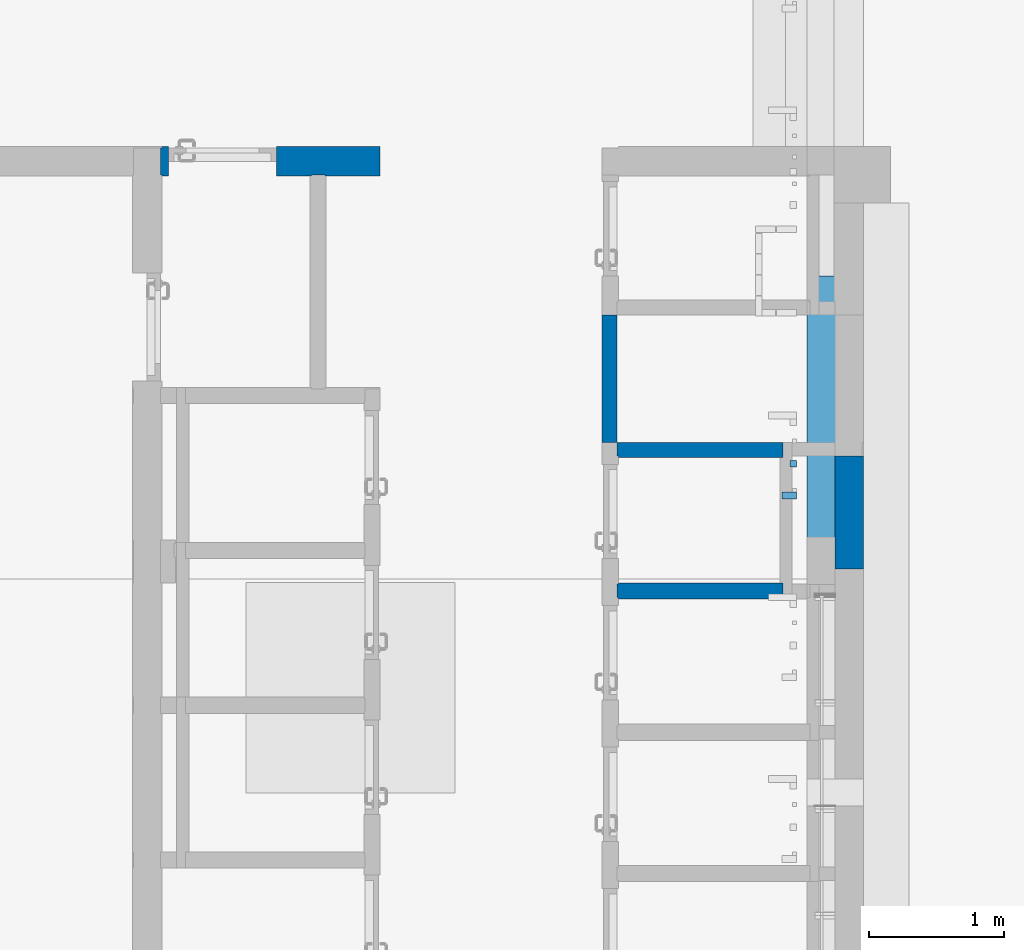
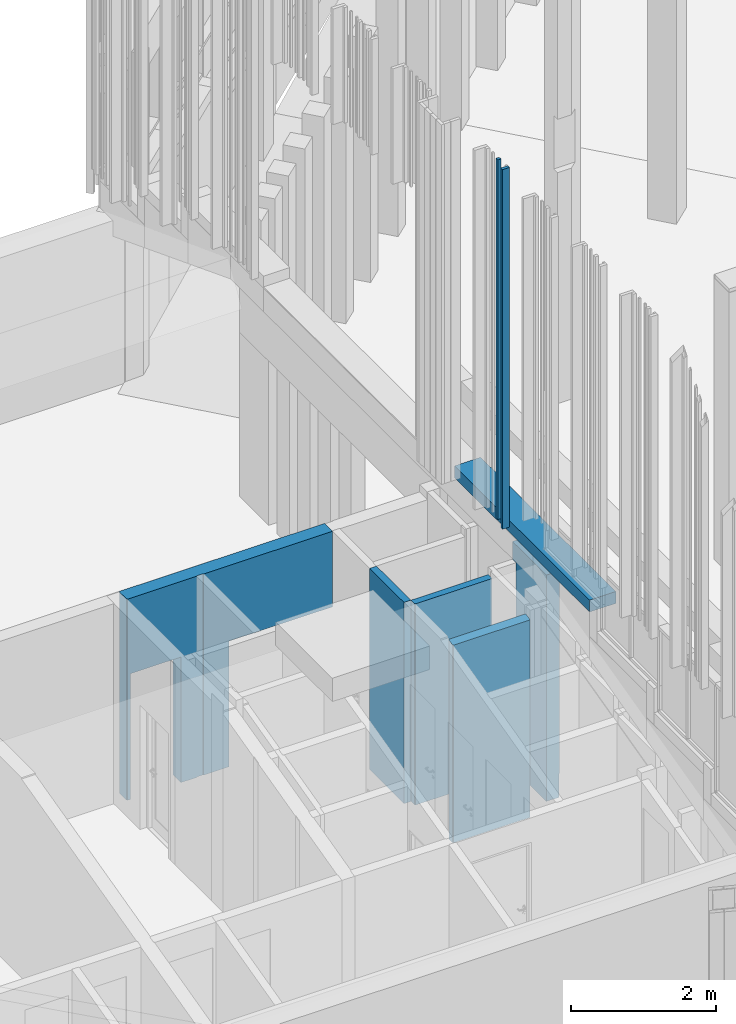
# One storey, part 126 of 390: 8 walls.
"""IFC2X3 building model written with IfcOpenShell, lengths in millimetres."""

import ifcopenshell
import ifcopenshell.guid

model = None  # the IFC model being written
_history = None  # IfcOwnerHistory: only IFC2X3 demands one
_inside = {}  # id of a spatial element -> (the spatial element, [elements in it])
_under = {}  # id of a project, library or spatial element -> (it, [spatial elements below it])
_declared = {}  # id of a project -> (the project, [libraries it declares])
_typed = {}  # id of a type object -> (the type object, [elements of that type])
_made_of = {}  # id of a material, layer set ... -> (it, [elements and type objects made of it])


def new_model(schema):
    """Start an empty IFC model of exactly this schema.

    Asked for "IFC4X3", IfcOpenShell would pick the latest addendum, in which some entities
    have other attributes; the version numbers below select the first issue.
    IFC2X3 requires an IfcOwnerHistory on every rooted entity: one is made here for all.
    """
    global model, _history
    if schema == "IFC4X3":
        model = ifcopenshell.file(schema_version=(4, 3, 0, 0))
    else:
        model = ifcopenshell.file(schema=schema)
    _inside.clear()
    _under.clear()
    _declared.clear()
    _typed.clear()
    _made_of.clear()
    _history = None
    if model.schema == "IFC2X3":
        org = make("IfcOrganization", Name="unknown")
        user = make(
            "IfcPersonAndOrganization",
            ThePerson=make("IfcPerson", FamilyName="unknown"),
            TheOrganization=org,
        )
        app = make(
            "IfcApplication",
            ApplicationDeveloper=org,
            Version="unknown",
            ApplicationFullName="unknown",
            ApplicationIdentifier="unknown",
        )
        _history = make(
            "IfcOwnerHistory",
            OwningUser=user,
            OwningApplication=app,
            ChangeAction="ADDED",
            CreationDate=0,
        )
    return model


def make(cls, **values):
    """One entity of the class cls with the attributes given. An attribute that is None is left unset."""
    return model.create_entity(
        cls, **{name: value for name, value in values.items() if value is not None}
    )


def entity(cls, *values):
    """Any entity or typed value of the class cls, its attributes in the order of the schema. None: left unset."""
    e = model.create_entity(cls)
    for i, value in enumerate(values):
        if value is not None:
            e[i] = value
    return e


def rooted(cls, **values):
    """An entity with a GlobalId (a new one), such as an element, a storey or a relation."""
    return make(cls, GlobalId=ifcopenshell.guid.new(), OwnerHistory=_history, **values)


def si_unit(unit_type, name, prefix=None):
    """IfcSIUnit, for example si_unit("LENGTHUNIT", "METRE", prefix="MILLI")."""
    return make("IfcSIUnit", UnitType=unit_type, Prefix=prefix, Name=name)


def converted_unit(unit_type, name, factor, base, dimensions=None, offset=None):
    """IfcConversionBasedUnit, such as the inch: factor (a typed value) times the base unit."""
    return make(
        "IfcConversionBasedUnit"
        if offset is None
        else "IfcConversionBasedUnitWithOffset",
        ConversionOffset=offset,
        Dimensions=None
        if dimensions is None
        else entity("IfcDimensionalExponents", *dimensions),
        UnitType=unit_type,
        Name=name,
        ConversionFactor=make(
            "IfcMeasureWithUnit", ValueComponent=factor, UnitComponent=base
        ),
    )


def derived_unit(unit_type, elements):
    """IfcDerivedUnit: a product of units, each with its exponent."""
    return make(
        "IfcDerivedUnit",
        Elements=[
            make("IfcDerivedUnitElement", Unit=unit, Exponent=power)
            for unit, power in elements
        ],
        UnitType=unit_type,
    )


def money_unit(currency):
    """IfcMonetaryUnit."""
    return make("IfcMonetaryUnit", Currency=currency)


def assignment(units):
    """IfcUnitAssignment: the units of a project."""
    return None if units is None else make("IfcUnitAssignment", Units=units)


def point(xyz):
    """IfcCartesianPoint."""
    return None if xyz is None else make("IfcCartesianPoint", Coordinates=xyz)


def direction(xyz):
    """IfcDirection."""
    return None if xyz is None else make("IfcDirection", DirectionRatios=xyz)


def frame(location, z_axis=None, x_axis=None):
    """IfcAxis2Placement3D, a coordinate frame: its origin and axes. An axis left out is left unset."""
    return make(
        "IfcAxis2Placement3D",
        Location=point(location),
        Axis=direction(z_axis),
        RefDirection=direction(x_axis),
    )


def origin_with_axes():
    """The frame at (0, 0, 0) with the z axis (0, 0, 1) and the x axis (1, 0, 0) written out."""
    return frame((0.0, 0.0, 0.0), z_axis=(0.0, 0.0, 1.0), x_axis=(1.0, 0.0, 0.0))


def place(relative_to, where):
    """IfcLocalPlacement: puts the frame where relative to a parent placement (None: the world)."""
    return make(
        "IfcLocalPlacement", PlacementRelTo=relative_to, RelativePlacement=where
    )


def context(
    kind, dimensions, precision=None, world=None, true_north=None, identifier=None
):
    """IfcGeometricRepresentationContext, for example the 3D "Model" context."""
    return make(
        "IfcGeometricRepresentationContext",
        ContextIdentifier=identifier,
        ContextType=kind,
        CoordinateSpaceDimension=dimensions,
        Precision=precision,
        WorldCoordinateSystem=world,
        TrueNorth=true_north,
    )


def subcontext(parent, identifier, kind, view, scale=None):
    """IfcGeometricRepresentationSubContext, for example "Body" below "Model"."""
    return make(
        "IfcGeometricRepresentationSubContext",
        ContextIdentifier=identifier,
        ContextType=kind,
        ParentContext=parent,
        TargetScale=scale,
        TargetView=view,
    )


def project(units=None, contexts=None):
    """IfcProject with its units and contexts."""
    return rooted(
        "IfcProject",
        Name="project",
        RepresentationContexts=contexts,
        UnitsInContext=assignment(units),
    )


def spatial(cls, under=None, at=None, **own):
    """A site, building, storey or space (cls), placed at a placement, below another one or the project."""
    s = rooted(cls, ObjectPlacement=at, **own)
    if under is not None:
        _under.setdefault(under.id(), (under, []))[1].append(s)
    return s


def faces_of(points, faces, orient=None, outer=None):
    """IfcFace entities. A face is a list of loops; a loop is a list of indices into points, from 0.

    orient and outer hold one flag for each loop. By default every Orientation is true, the
    first loop of a face is its IfcFaceOuterBound and the others are IfcFaceBound.
    """
    made = []
    for i, loops in enumerate(faces):
        bounds = []
        for j, loop in enumerate(loops):
            is_outer = j == 0 if outer is None else outer[i][j]
            bounds.append(
                make(
                    "IfcFaceOuterBound" if is_outer else "IfcFaceBound",
                    Bound=make("IfcPolyLoop", Polygon=[points[k] for k in loop]),
                    Orientation=True if orient is None else orient[i][j],
                )
            )
        made.append(make("IfcFace", Bounds=bounds))
    return made


def faceted_brep(points, faces, orient=None, outer=None, voids=None):
    """IfcFacetedBrep: a solid bounded by flat faces; with voids (closed shells), ...WithVoids."""
    shared = [point(p) for p in points]
    hull = make("IfcClosedShell", CfsFaces=faces_of(shared, faces, orient, outer))
    if voids is None:
        return make("IfcFacetedBrep", Outer=hull)
    return make(
        "IfcFacetedBrepWithVoids",
        Outer=hull,
        Voids=[
            make(cls, CfsFaces=faces_of(shared, fs, o, b)) for cls, fs, o, b in voids
        ],
    )


def shape(context_of_items, identifier, shape_type, items):
    """IfcShapeRepresentation: the items that make up one representation, for example the "Body"."""
    return make(
        "IfcShapeRepresentation",
        ContextOfItems=context_of_items,
        RepresentationIdentifier=identifier,
        RepresentationType=shape_type,
        Items=items,
    )


def material(Name=None, Category=None):
    """IfcMaterial."""
    return make("IfcMaterial", Name=Name, Category=Category)


def material_list(materials):
    """IfcMaterialList."""
    return make("IfcMaterialList", Materials=materials)


def made_of(thing, what):
    """Note that an element or type object is made of a material, layer set ...; save() writes the relation."""
    if what is not None:
        _made_of.setdefault(what.id(), (what, []))[1].append(thing)
    return thing


def type_object(cls, material=None, **own):
    """A type object (cls), such as IfcWallType, which elements share."""
    return made_of(rooted(cls, **own), material)


def element(
    cls,
    number,
    at=None,
    inside=None,
    cuts=None,
    type_object=None,
    material=None,
    context=None,
    identifier="Body",
    shape_type=None,
    held_by="IfcProductDefinitionShape",
    body=None,
    shapes=None,
    **own,
):
    """One element of the class cls, such as IfcWall. Its Tag is "e" and its number.

    at: its placement. inside: the storey or other place that contains it. cuts: it is an
    opening in that element (IfcRelVoidsElement). A single representation is given by context,
    identifier, shape_type and body (its items); several are given by shapes. held_by: the class
    of the entity that holds the representations. save() writes the other relations.
    """
    e = rooted(cls, Tag="e%d" % number, ObjectPlacement=at, **own)
    if body is not None:
        shapes = [shape(context, identifier, shape_type, body)]
    if shapes is not None:
        e.Representation = make(held_by, Representations=shapes)
    if inside is not None:
        _inside.setdefault(inside.id(), (inside, []))[1].append(e)
    if cuts is not None:
        rooted(
            "IfcRelVoidsElement", RelatingBuildingElement=cuts, RelatedOpeningElement=e
        )
    if type_object is not None:
        _typed.setdefault(type_object.id(), (type_object, []))[1].append(e)
    return made_of(e, material)


def aggregate(whole, parts):
    """IfcRelAggregates: a whole, such as a stair, and the parts it consists of."""
    return rooted("IfcRelAggregates", RelatingObject=whole, RelatedObjects=parts)


def save(model, path):
    """Write the relations noted so far, then the file.

    IfcRelAggregates (storeys below a building ...), IfcRelContainedInSpatialStructure (elements
    in a storey), IfcRelDefinesByType, IfcRelAssociatesMaterial and IfcRelDeclares: one each for
    every whole, place, type object, material and project.
    """
    for whole, parts in _under.values():
        aggregate(whole, parts)
    for where, things in _inside.values():
        rooted(
            "IfcRelContainedInSpatialStructure",
            RelatedElements=things,
            RelatingStructure=where,
        )
    for kind, things in _typed.values():
        rooted("IfcRelDefinesByType", RelatedObjects=things, RelatingType=kind)
    for what, things in _made_of.values():
        rooted("IfcRelAssociatesMaterial", RelatedObjects=things, RelatingMaterial=what)
    for by, libraries in _declared.values():
        rooted("IfcRelDeclares", RelatingContext=by, RelatedDefinitions=libraries)
    model.write(path)


model = new_model("IFC2X3")

# Units and contexts
model_context = context("Model", 3, precision=1e-05, world=origin_with_axes(), true_north=direction((0.0, 1.0)))
body_context = subcontext(model_context, "Body", "Model", "MODEL_VIEW")
ifc_project = project(units=[si_unit("LENGTHUNIT", "METRE", prefix="MILLI"), si_unit("AREAUNIT", "SQUARE_METRE"), si_unit("VOLUMEUNIT", "CUBIC_METRE"), converted_unit("PLANEANGLEUNIT", "DEGREE", entity("IfcPlaneAngleMeasure", 0.0174532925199), si_unit("PLANEANGLEUNIT", "RADIAN"), dimensions=[0, 0, 0, 0, 0, 0, 0]), si_unit("SOLIDANGLEUNIT", "STERADIAN"), money_unit("EUR"), converted_unit("TIMEUNIT", "Year", entity("IfcTimeMeasure", 31556926.0), si_unit("TIMEUNIT", "SECOND"), dimensions=[0, 0, 1, 0, 0, 0, 0]), si_unit("MASSUNIT", "GRAM", prefix="KILO"), si_unit("THERMODYNAMICTEMPERATUREUNIT", "DEGREE_CELSIUS"), si_unit("LUMINOUSINTENSITYUNIT", "LUMEN"), si_unit("ENERGYUNIT", "JOULE", prefix="MEGA"), derived_unit("THERMALCONDUCTANCEUNIT", [(si_unit("POWERUNIT", "WATT"), 1), (si_unit("LENGTHUNIT", "METRE"), -1), (si_unit("THERMODYNAMICTEMPERATUREUNIT", "KELVIN"), -1)]), derived_unit("SPECIFICHEATCAPACITYUNIT", [(si_unit("ENERGYUNIT", "JOULE"), 1), (si_unit("MASSUNIT", "GRAM", prefix="KILO"), -1), (si_unit("THERMODYNAMICTEMPERATUREUNIT", "KELVIN"), -1)]), derived_unit("MASSDENSITYUNIT", [(si_unit("MASSUNIT", "GRAM", prefix="KILO"), 1), (si_unit("VOLUMEUNIT", "CUBIC_METRE"), -1)])], contexts=[model_context])

# Site, building, storey
site_placement = place(None, origin_with_axes())
site = spatial("IfcSite", under=ifc_project, at=site_placement, Name="Site", CompositionType="ELEMENT")
building_placement = place(site_placement, origin_with_axes())
building = spatial("IfcBuilding", under=site, at=building_placement, Name="Building", CompositionType="ELEMENT")
storey_placement = place(building_placement, origin_with_axes())
storey = spatial("IfcBuildingStorey", under=building, at=storey_placement, Name="1 korrus", CompositionType="ELEMENT", Elevation=0.0)

# Walls
ifc_material_1 = material(Name="Krohv - Lubjakivi")
ifc_material_2 = material(Name="Raudbetoon - Konstruktsioon")
ifc_material_list_1 = material_list([ifc_material_1, ifc_material_1, ifc_material_2, ifc_material_1])
wall_type_1 = type_object("IfcWallType", Name="SS-10", PredefinedType="NOTDEFINED")
wall_1_placement = place(storey_placement, frame((120969.999992, 67290.00001, -620.0), z_axis=(0.0, 0.0, 1.0), x_axis=(-1.0, 0.0, 0.0)))
element("IfcWall", 1, at=wall_1_placement, inside=storey, type_object=wall_type_1, material=ifc_material_list_1, Name="SS-10", context=body_context, shape_type="Brep", body=[
    faceted_brep([(3219.99999908, -10.0, 2120.0), (3219.99999908, -10.0, 20.0), (3219.99999908, -10.0, 0.0), (3269.99999938, -10.0, 0.0), (3269.99999938, -10.0, 3395.23675917), (2159.99999937, -10.0, 3395.23675917), (2159.99999937, -10.0, 0.0), (2419.99999908, -10.0, 0.0), (2419.99999908, -10.0, 20.0), (2419.99999908, -10.0, 2120.0), (3219.99999908, 0.0, 2120.0), (3219.99999908, 0.0, 20.0), (3219.99999908, 0.0, 0.0), (3269.99999938, 0.0, 0.0), (3269.99999938, 0.0, 3395.23675917), (2159.99999937, 0.0, 3395.23675917), (2159.99999937, 0.0, 0.0), (2419.99999908, 0.0, 0.0), (2419.99999908, 0.0, 20.0), (2419.99999908, 0.0, 2120.0)], [[[0, 1, 2, 3, 4, 5, 6, 7, 8, 9]], [[1, 0, 10, 11]], [[1, 11, 12, 2]], [[12, 13, 3, 2]], [[14, 4, 3, 13]], [[4, 14, 15, 5]], [[5, 15, 16, 6]], [[7, 6, 16, 17]], [[18, 8, 7, 17]], [[9, 8, 18, 19]], [[0, 9, 19, 10]], [[19, 18, 17, 16, 15, 14, 13, 12, 11, 10]]]),
    faceted_brep([(0.0, 0.0, 2120.0), (0.0, -10.0, 2120.0), (0.0, -10.0, 3395.23675917), (0.0, 0.0, 3395.23675917), (1649.99999932, -10.0, 2120.0), (1649.99999932, 0.0, 2120.0), (1649.99999932, -10.0, 20.0), (1649.99999932, -10.0, 0.0), (2059.99999937, -10.0, 0.0), (2059.99999937, -10.0, 3395.23675917), (2059.99999937, 0.0, 3395.23675917), (2059.99999937, 0.0, 0.0), (1649.99999932, 0.0, 0.0), (1649.99999932, 0.0, 20.0)], [[[0, 1, 2, 3]], [[4, 1, 0, 5]], [[4, 6, 7, 8, 9, 2, 1]], [[2, 9, 10, 3]], [[5, 0, 3, 10, 11, 12, 13]], [[6, 4, 5, 13]], [[6, 13, 12, 7]], [[12, 11, 8, 7]], [[10, 9, 8, 11]]]),
    faceted_brep([(0.0, -10.0, 2120.0), (0.0, -210.0, 2120.0), (0.0, -210.0, 3395.23675917), (0.0, -10.0, 3395.23675917), (1649.99999932, -210.0, 2120.0), (1649.99999932, -10.0, 2120.0), (1649.99999932, -210.0, 20.0), (1649.99999932, -210.0, 0.0), (2419.99999908, -210.0, 0.0), (2419.99999908, -210.0, 20.0), (2419.99999908, -210.0, 2120.0), (3219.99999908, -210.0, 2120.0), (3219.99999908, -210.0, 20.0), (3219.99999908, -210.0, 0.0), (3280.00000007, -210.0, 0.0), (3280.00000007, -210.0, 3395.23675917), (3280.00000007, -10.0, 3395.23675917), (3280.00000007, -10.0, 0.0), (3219.99999908, -10.0, 0.0), (3219.99999908, -10.0, 20.0), (3219.99999908, -10.0, 2120.0), (2419.99999908, -10.0, 2120.0), (2419.99999908, -10.0, 20.0), (2419.99999908, -10.0, 0.0), (1649.99999932, -10.0, 0.0), (1649.99999932, -10.0, 20.0)], [[[0, 1, 2, 3]], [[4, 1, 0, 5]], [[4, 6, 7, 8, 9, 10, 11, 12, 13, 14, 15, 2, 1]], [[3, 2, 15, 16]], [[5, 0, 3, 16, 17, 18, 19, 20, 21, 22, 23, 24, 25]], [[6, 4, 5, 25]], [[6, 25, 24, 7]], [[24, 23, 8, 7]], [[8, 23, 22, 9]], [[9, 22, 21, 10]], [[10, 21, 20, 11]], [[11, 20, 19, 12]], [[19, 18, 13, 12]], [[14, 13, 18, 17]], [[14, 17, 16, 15]]]),
    faceted_brep([(0.0, -210.0, 2120.0), (0.0, -220.0, 2120.0), (0.0, -220.0, 3395.23675917), (0.0, -210.0, 3395.23675917), (1649.99999932, -220.0, 2120.0), (1649.99999932, -210.0, 2120.0), (1649.99999932, -220.0, 20.0), (1649.99999932, -220.0, 0.0), (2419.99999908, -220.0, 0.0), (2419.99999908, -220.0, 20.0), (2419.99999908, -220.0, 2120.0), (3219.99999908, -220.0, 2120.0), (3219.99999908, -220.0, 20.0), (3219.99999908, -220.0, 0.0), (3269.99999938, -220.0, 0.0), (3269.99999938, -220.0, 3395.23679544), (3269.99999938, -210.0, 3395.23675917), (3269.99999938, -210.0, 0.0), (3219.99999908, -210.0, 0.0), (3219.99999908, -210.0, 20.0), (3219.99999908, -210.0, 2120.0), (2419.99999908, -210.0, 2120.0), (2419.99999908, -210.0, 20.0), (2419.99999908, -210.0, 0.0), (1649.99999932, -210.0, 0.0), (1649.99999932, -210.0, 20.0)], [[[0, 1, 2, 3]], [[4, 1, 0, 5]], [[4, 6, 7, 8, 9, 10, 11, 12, 13, 14, 15, 2, 1]], [[16, 3, 2, 15]], [[5, 0, 3, 16, 17, 18, 19, 20, 21, 22, 23, 24, 25]], [[6, 4, 5, 25]], [[6, 25, 24, 7]], [[7, 24, 23, 8]], [[9, 8, 23, 22]], [[9, 22, 21, 10]], [[10, 21, 20, 11]], [[11, 20, 19, 12]], [[19, 18, 13, 12]], [[17, 14, 13, 18]], [[15, 14, 17, 16]]]),
])
ifc_material_list_2 = material_list([ifc_material_2, ifc_material_1])
wall_type_2 = type_object("IfcWallType", Name="SS-11", PredefinedType="NOTDEFINED")
wall_2_placement = place(storey_placement, frame((122699.999995, 64370.5869173, -620.0), z_axis=(0.0, 0.0, 1.0), x_axis=(0.0, 1.0, 0.0)))
element("IfcWall", 2, at=wall_2_placement, inside=storey, type_object=wall_type_2, material=ifc_material_list_2, Name="SS-11", context=body_context, shape_type="Brep", body=[
    faceted_brep([(839.41309275, -200.0, 0.0), (839.41309275, -200.0, 3520.23675989), (939.41309275, -200.0, 3520.23675989), (939.41309275, -200.0, 3820.23675989), (0.0, -200.0, 3820.23675989), (0.0, -200.0, 0.0), (839.41309275, 0.0, 0.0), (839.41309275, 0.0, 3520.23675989), (939.41309275, 0.0, 3520.23675989), (939.41309275, 0.0, 3820.23675989), (0.0, 0.0, 3820.23675989), (0.0, 0.0, 0.0)], [[[0, 1, 2, 3, 4, 5]], [[1, 0, 6, 7]], [[8, 2, 1, 7]], [[2, 8, 9, 3]], [[4, 3, 9, 10]], [[11, 5, 4, 10]], [[6, 0, 5, 11]], [[7, 6, 11, 10, 9, 8]]]),
    faceted_brep([(0.0, -210.0, 400.0), (839.41309275, -209.999999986, 400.0), (839.41309275, -209.999999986, 3520.23675989), (939.41309275, -209.999999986, 3520.23675989), (939.41309275, -210.0, 3820.23675989), (0.0, -210.0, 3820.23675989), (839.41309275, -200.000002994, 400.0), (0.0, -200.000002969, 400.0), (839.41309275, -200.0, 3520.23675989), (939.41309275, -200.0, 3520.23675989), (939.41309275, -200.0, 3820.23675989), (0.0, -200.0, 3820.23675989)], [[[0, 1, 2, 3, 4, 5]], [[6, 1, 0, 7]], [[1, 6, 8, 2]], [[8, 9, 3, 2]], [[4, 3, 9, 10]], [[11, 5, 4, 10]], [[7, 0, 5, 11]], [[6, 7, 11, 10, 9, 8]]]),
])
ifc_material_3 = material(Name="Site specified")
wall_type_3 = type_object("IfcWallType", Name="Puitfassaadi ribistik", PredefinedType="NOTDEFINED")
wall_3_placement = place(storey_placement, frame((122387.999995, 65154.0003213, 3795.0), z_axis=(0.0, 0.0, 1.0), x_axis=(-4.22595063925e-09, 1.0, 0.0)))
element("IfcWall", 3, at=wall_3_placement, inside=storey, type_object=wall_type_3, material=ifc_material_3, Name="Site specified", context=body_context, shape_type="Brep", body=[
    faceted_brep([(25.0, 25.0, 6070.0), (25.0, 25.0, 0.0), (-25.0, 25.0, 0.0), (-25.0, 25.0, 6070.0), (25.0, -25.0, 6070.0), (25.0, -25.0, 0.0), (-25.0, -25.0, 0.0), (-25.0, -25.0, 6070.0)], [[[0, 1, 2, 3]], [[4, 5, 1, 0]], [[2, 1, 5, 6]], [[3, 2, 6, 7]], [[4, 0, 3, 7]], [[7, 6, 5, 4]]]),
])
wall_4_placement = place(storey_placement, frame((122358.499996, 64918.0003212, 3795.0), z_axis=(0.0, 0.0, 1.0), x_axis=(-4.22595063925e-09, 1.0, 0.0)))
element("IfcWall", 4, at=wall_4_placement, inside=storey, type_object=wall_type_3, material=ifc_material_3, Name="Site specified", context=body_context, shape_type="Brep", body=[
    faceted_brep([(25.0, 54.5, 6070.0), (25.0, 54.5, 0.0), (-25.0, 54.5, 0.0), (-25.0, 54.5, 6070.0), (25.0, -54.5, 6070.0), (25.0, -54.5, 0.0), (-25.0, -54.5, 0.0), (-25.0, -54.5, 6070.0)], [[[0, 1, 2, 3]], [[4, 5, 1, 0]], [[2, 1, 5, 6]], [[3, 2, 6, 7]], [[4, 0, 3, 7]], [[7, 6, 5, 4]]]),
])
ifc_material_4 = material(Name="Müüriplokk - Konstuktsioon")
ifc_material_list_3 = material_list([ifc_material_4, ifc_material_1])
wall_type_4 = type_object("IfcWallType", Name="SS-08", PredefinedType="NOTDEFINED")
wall_5_placement = place(storey_placement, frame((121079.999992, 66260.0000104, -620.0), z_axis=(0.0, 0.0, 1.0), x_axis=(0.0, -1.0, 0.0)))
element("IfcWall", 5, at=wall_5_placement, inside=storey, type_object=wall_type_4, material=ifc_material_list_3, Name="SS-08", context=body_context, shape_type="Brep", body=[
    faceted_brep([(0.0, -100.0, 3395.23675944), (0.0, 0.0, 3395.23675944), (0.0, 0.0, 0.0), (0.0, -100.0, 0.0), (950.000000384, 0.0, 3395.23675944), (950.000000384, -100.0, 3395.23675944), (950.000000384, 0.0, 0.0), (950.000000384, -100.0, 0.0)], [[[0, 1, 2, 3]], [[4, 1, 0, 5]], [[1, 4, 6, 2]], [[7, 3, 2, 6]], [[5, 0, 3, 7]], [[4, 5, 7, 6]]]),
    faceted_brep([(0.0, -110.0, 3395.23675944), (0.0, -100.0, 3395.23675944), (0.0, -100.0, 0.0), (0.0, -110.0, 0.0), (950.000000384, -100.0, 3395.23675944), (950.000000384, -110.0, 3395.23675944), (950.000000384, -100.0, 0.0), (950.000000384, -110.0, 0.0)], [[[0, 1, 2, 3]], [[4, 1, 0, 5]], [[1, 4, 6, 2]], [[3, 2, 6, 7]], [[5, 0, 3, 7]], [[4, 5, 7, 6]]]),
])
wall_6_placement = place(storey_placement, frame((121079.999992, 65310.00001, -620.0), z_axis=(0.0, 0.0, 1.0), x_axis=(1.0, 0.0, 0.0)))
element("IfcWall", 6, at=wall_6_placement, inside=storey, type_object=wall_type_4, material=ifc_material_list_3, Name="SS-08", context=body_context, shape_type="Brep", body=[
    faceted_brep([(0.0, 0.0, 3395.23675944), (1234.0000066, 0.0, 3395.23675944), (1234.0000066, 0.0, 0.0), (0.0, 0.0, 0.0), (1234.0000066, -100.0, 3395.23675944), (-2.17426077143e-09, -100.0, 3395.23675944), (1234.0000066, -100.0, 0.0), (-2.17426077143e-09, -100.0, 0.0)], [[[0, 1, 2, 3]], [[4, 1, 0, 5]], [[1, 4, 6, 2]], [[6, 7, 3, 2]], [[5, 0, 3, 7]], [[4, 5, 7, 6]]]),
    faceted_brep([(10.0000012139, -100.0, 3395.23675944), (1234.0000066, -100.0, 3395.23675944), (1234.0000066, -100.0, 0.0), (10.0000012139, -100.0, 0.0), (1234.0000066, -110.0, 3395.23675944), (10.0000012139, -110.0, 3395.23675944), (1234.0000066, -110.0, 0.0), (10.0000012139, -110.0, 0.0)], [[[0, 1, 2, 3]], [[4, 1, 0, 5]], [[1, 4, 6, 2]], [[6, 7, 3, 2]], [[5, 0, 3, 7]], [[4, 5, 7, 6]]]),
])
ifc_material_5 = material(Name="Plaat - Sein")
ifc_material_6 = material(Name="Soojustus - Plastik Kõva")
ifc_material_list_4 = material_list([ifc_material_5, ifc_material_6, ifc_material_6, ifc_material_2, ifc_material_1])
wall_type_5 = type_object("IfcWallType", Name="VS-05", PredefinedType="NOTDEFINED")
wall_7_placement = place(storey_placement, frame((122909.999995, 62812.5685666, 3595.0), z_axis=(0.0, 0.0, 1.0), x_axis=(0.0, 1.0, 0.0)))
element("IfcWall", 7, at=wall_7_placement, inside=storey, type_object=wall_type_5, material=ifc_material_list_4, Name="VS-05", context=body_context, shape_type="Brep", body=[
    faceted_brep([(3737.43144311, 418.00000005, 0.0), (3737.43144311, 410.00000005, 0.0), (-5.49960077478e-09, 410.0, 0.0), (-5.60618218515e-09, 418.0, 0.0), (3737.43144311, 418.00000005, 200.0), (3737.43144311, 410.00000005, 200.0), (-5.49960077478e-09, 410.0, 200.0), (-5.60618218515e-09, 418.0, 200.0)], [[[0, 1, 2, 3]], [[0, 4, 5, 1]], [[1, 5, 6, 2]], [[3, 2, 6, 7]], [[4, 0, 3, 7]], [[5, 4, 7, 6]]]),
    faceted_brep([(3737.43144311, 410.00000005, 0.0), (3737.43144312, 360.00000005, 0.0), (-4.82458517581e-09, 360.0, 0.0), (-5.49960077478e-09, 410.0, 0.0), (3737.43144311, 410.00000005, 200.0), (3737.43144312, 360.00000005, 200.0), (-4.82458517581e-09, 360.0, 200.0), (-5.49960077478e-09, 410.0, 200.0)], [[[0, 1, 2, 3]], [[0, 4, 5, 1]], [[1, 5, 6, 2]], [[3, 2, 6, 7]], [[4, 0, 3, 7]], [[5, 4, 7, 6]]]),
    faceted_brep([(3737.43144312, 360.00000005, 0.0), (3737.43144312, 210.00000005, 0.0), (-2.81374923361e-09, 210.0, 0.0), (-4.82458517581e-09, 360.0, 0.0), (3737.43144312, 360.00000005, 200.0), (3737.43144312, 210.00000005, 200.0), (-2.81374923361e-09, 210.0, 200.0), (-4.82458517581e-09, 360.0, 200.0)], [[[0, 1, 2, 3]], [[0, 4, 5, 1]], [[1, 5, 6, 2]], [[3, 2, 6, 7]], [[4, 0, 3, 7]], [[5, 4, 7, 6]]]),
    faceted_brep([(3737.43144312, 210.00000005, 0.0), (3737.43144312, 10.0000000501, 0.0), (-1.35003119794e-10, 10.0, 0.0), (-2.81374923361e-09, 210.0, 0.0), (3737.43144312, 210.00000005, 200.0), (3737.43144312, 10.0000000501, 200.0), (-1.35003119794e-10, 10.0, 200.0), (-2.81374923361e-09, 210.0, 200.0)], [[[0, 1, 2, 3]], [[0, 4, 5, 1]], [[1, 5, 6, 2]], [[3, 2, 6, 7]], [[4, 0, 3, 7]], [[5, 4, 7, 6]]]),
    faceted_brep([(3737.43144312, 10.0000000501, 0.0), (3737.43144312, 5.00932628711e-08, 0.0), (0.0, 0.0, 0.0), (-1.35003119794e-10, 10.0, 0.0), (3737.43144312, 10.0000000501, 200.0), (3737.43144312, 5.00932628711e-08, 200.0), (0.0, 0.0, 200.0), (-1.35003119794e-10, 10.0, 200.0)], [[[0, 1, 2, 3]], [[0, 4, 5, 1]], [[1, 5, 6, 2]], [[3, 2, 6, 7]], [[4, 0, 3, 7]], [[5, 4, 7, 6]]]),
])
ifc_material_list_5 = material_list([ifc_material_1, ifc_material_4, ifc_material_1])
wall_type_6 = type_object("IfcWallType", Name="SS-07", PredefinedType="NOTDEFINED")
wall_8_placement = place(storey_placement, frame((121079.999992, 64270.00001, -620.0), z_axis=(0.0, 0.0, 1.0), x_axis=(1.0, 0.0, 0.0)))
element("IfcWall", 8, at=wall_8_placement, inside=storey, type_object=wall_type_6, material=ifc_material_list_5, Name="SS-07", context=body_context, shape_type="Brep", body=[
    faceted_brep([(10.0, 0.0, 3365.37820191), (1234.0000066, 0.0, 3365.37820191), (1234.0000066, 0.0, 0.0), (10.0, 0.0, 0.0), (1234.0000066, -10.0, 3362.83852545), (10.0, -10.0, 3362.83852545), (1234.0000066, -10.0, 0.0), (10.0, -10.0, 0.0)], [[[0, 1, 2, 3]], [[4, 1, 0, 5]], [[1, 4, 6, 2]], [[2, 6, 7, 3]], [[5, 0, 3, 7]], [[4, 5, 7, 6]]]),
    faceted_brep([(0.0, -10.0, 3362.83852545), (1234.0000066, -10.0, 3362.83852545), (1234.0000066, -10.0, 0.0), (0.0, -10.0, 0.0), (1234.0000066, -110.0, 3337.4417608), (0.0, -110.0, 3337.4417608), (1234.0000066, -110.0, 0.0), (0.0, -110.0, 0.0)], [[[0, 1, 2, 3]], [[4, 1, 0, 5]], [[1, 4, 6, 2]], [[2, 6, 7, 3]], [[5, 0, 3, 7]], [[4, 5, 7, 6]]]),
    faceted_brep([(10.0, -110.0, 3337.4417608), (1234.0000066, -110.0, 3337.4417608), (1234.0000066, -110.0, 0.0), (10.0, -110.0, 0.0), (1234.0000066, -120.0, 3334.90208433), (10.0, -120.0, 3334.90208433), (1234.0000066, -120.0, 0.0), (10.0, -120.0, 0.0)], [[[0, 1, 2, 3]], [[4, 1, 0, 5]], [[1, 4, 6, 2]], [[2, 6, 7, 3]], [[5, 0, 3, 7]], [[4, 5, 7, 6]]]),
])

save(model, "model.ifc")
